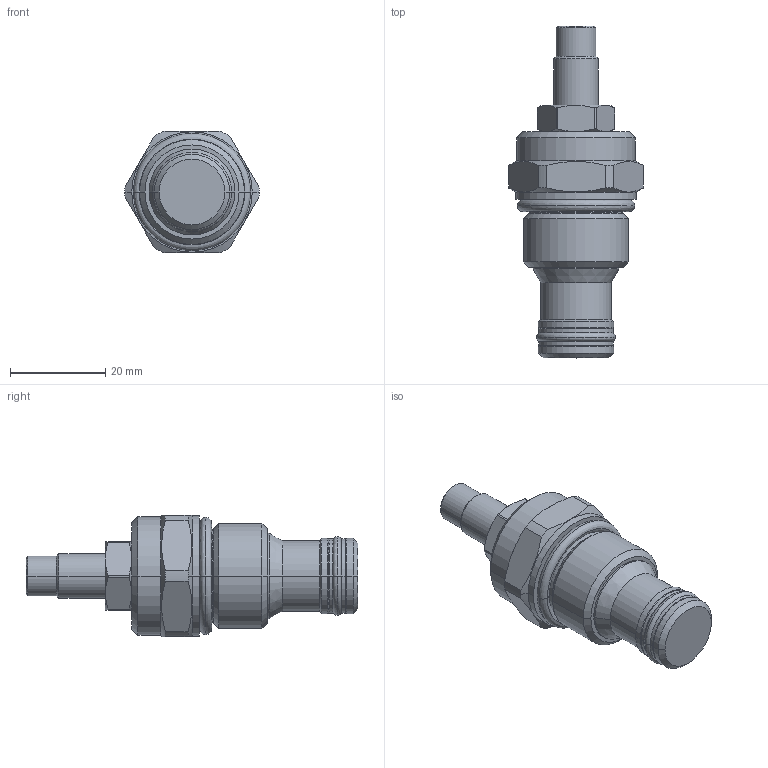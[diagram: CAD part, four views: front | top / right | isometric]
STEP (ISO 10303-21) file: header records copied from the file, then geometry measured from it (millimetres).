
FILE_DESCRIPTION((''),'2;1');
FILE_NAME('5424120_SW0001','2009-02-03T',('jcs'),(''),'PRO/ENGINEER BY PARAMETRIC TECHNOLOGY CORPORATION, 2008010','PRO/ENGINEER BY PARAMETRIC TECHNOLOGY CORPORATION, 2008010','');
FILE_SCHEMA(('CONFIG_CONTROL_DESIGN'));
Length unit declared in the file: inch
Products named in the file (1): 5424120_SW0001
Bounding box: 28.19 x 69.65 x 25.4 mm (x, y, z)
Volume: 18160 mm3; surface area: 6154.6 mm2
Topology: 3 solids, 3 shells, 150 faces, 344 edges, 203 vertices
Faces by surface type: cylinder 44, plane 40, cone 34, torus 16, revolution 16
Entity records: 4976 total; most frequent: CARTESIAN_POINT 1543, DIRECTION 740, ORIENTED_EDGE 684, EDGE_CURVE 342, AXIS2_PLACEMENT_3D 304, VERTEX_POINT 203, CIRCLE 170, EDGE_LOOP 159
